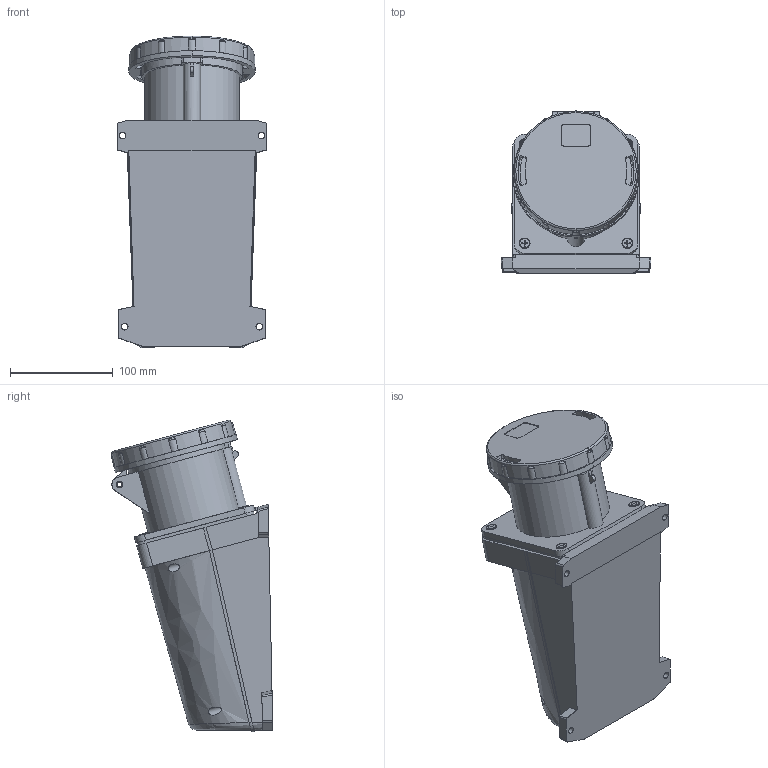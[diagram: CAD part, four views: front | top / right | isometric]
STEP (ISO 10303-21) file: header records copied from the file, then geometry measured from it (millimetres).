
FILE_DESCRIPTION (( 'STEP AP203' ), '1' );
FILE_NAME ('TLS125653.STEP', '2018-08-10T19:55:32', ( '' ), ( '' ), 'SwSTEP 2.0', 'SolidWorks 2012', '' );
FILE_SCHEMA (( 'CONFIG_CONTROL_DESIGN' ));
Length unit declared in the file: millimetre
Products named in the file (1): TLS125653
Bounding box: 146 x 157.39 x 303.55 mm (x, y, z)
Volume: 2914147.7 mm3; surface area: 200632 mm2
Topology: 1 solids, 1 shells, 398 faces, 1062 edges, 691 vertices
Faces by surface type: plane 240, cylinder 114, torus 29, bspline 15
Entity records: 14976 total; most frequent: CARTESIAN_POINT 4960, ORIENTED_EDGE 2124, DIRECTION 2007, EDGE_CURVE 1062, VECTOR 709, LINE 709, VERTEX_POINT 691, AXIS2_PLACEMENT_3D 649
